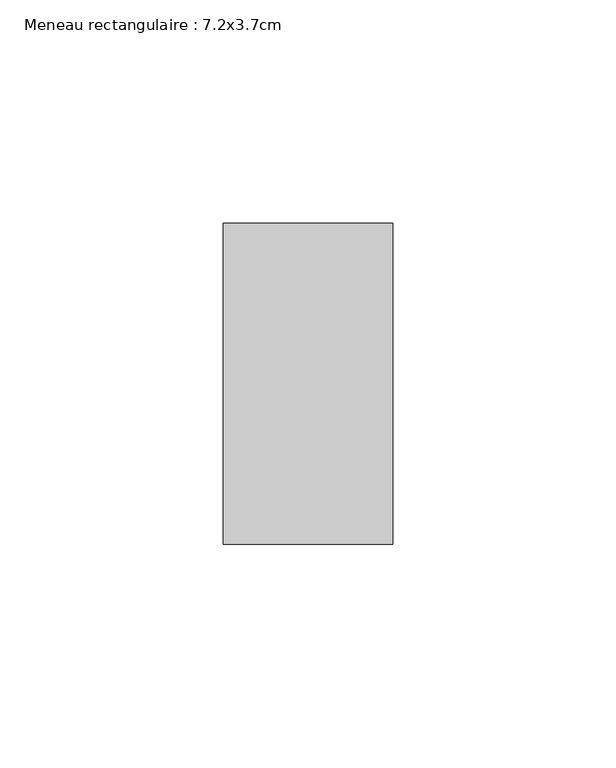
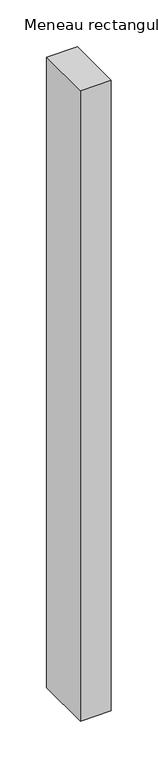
"""IFC4 building model written with IfcOpenShell, lengths in millimetres: member geometry, Meneau rectangulaire : 7.2x3.7cm."""

from ifc_helpers import new_model, si_unit, frame, origin, place, context, project, spatial, polyline, outline, extrude, source, transform, mapped, element, save


def meneau_rectangulaire_7_2x3_7cm_cbbeef3d(model_context):
    return source(origin(), model_context, "Body", "SweptSolid", [
        extrude(outline(polyline([(0.0, 36.0), (0.0, -36.0), (-38.0, -36.0), (-38.0, 36.0), (0.0, 36.0)])), frame((0.0, 0.0, -822.0), z_axis=(0.0, 0.0, 1.0), x_axis=(1.0, 0.0, 0.0)), (0.0, 0.0, 1.0), 822.0),
    ])


if __name__ == "__main__":
    model = new_model("IFC4")
    model_context = context("Model", 3, world=origin())
    ifc_project = project(units=[si_unit("LENGTHUNIT", "METRE", prefix="MILLI")], contexts=[model_context])
    site = spatial("IfcSite", under=ifc_project)
    building = spatial("IfcBuilding", under=site)
    placement = place(None, origin())
    meneau_rectangulaire_7_2x3_7cm_shape = meneau_rectangulaire_7_2x3_7cm_cbbeef3d(model_context)
    element("IfcMember", 1, ObjectType="Meneau rectangulaire : 7.2x3.7cm", at=placement, inside=building, context=model_context, shape_type="MappedRepresentation", body=[
        mapped(meneau_rectangulaire_7_2x3_7cm_shape, transform((0.0, 0.0, 0.0), x_axis=(1.0, 0.0, 0.0), y_axis=(0.0, 1.0, 0.0), z_axis=(0.0, 0.0, 1.0))),
    ])
    save(model, "model.ifc")
